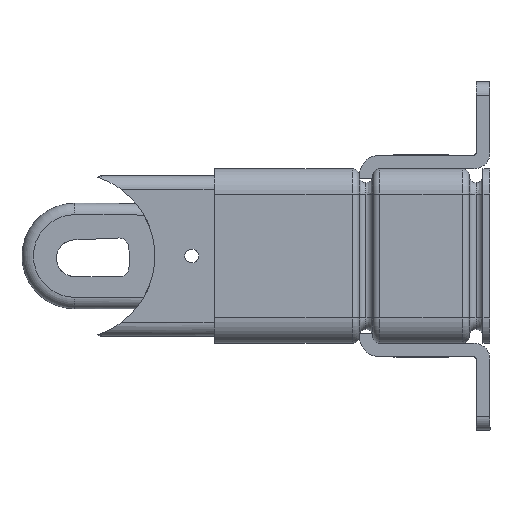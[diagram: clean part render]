
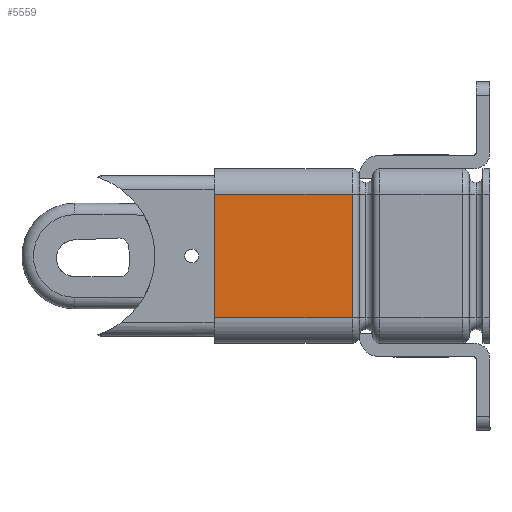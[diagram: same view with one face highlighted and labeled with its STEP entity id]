
A CAD part, left-side view. The second image highlights one B-rep face of the part: STEP entity #5559.
In plain terms, the highlighted planar face has unit normal (-1, 0, 0).
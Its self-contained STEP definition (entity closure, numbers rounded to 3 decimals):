
#4910=CARTESIAN_POINT('',(-19.,60.,5.5));
#4911=VERTEX_POINT('',#4910);
#4935=CARTESIAN_POINT('',(-19.,30.,5.5));
#4936=VERTEX_POINT('',#4935);
#4944=CARTESIAN_POINT('',(-19.,60.,5.5));
#4945=DIRECTION('',(0.0,-1.0,0.0));
#4946=VECTOR('',#4945,30.);
#4947=LINE('',#4944,#4946);
#4948=EDGE_CURVE('',#4911,#4936,#4947,.T.);
#5518=CARTESIAN_POINT('',(-19.,60.,32.5));
#5519=VERTEX_POINT('',#5518);
#5520=CARTESIAN_POINT('',(-19.,60.,32.5));
#5521=DIRECTION('',(0.0,0.0,-1.0));
#5522=VECTOR('',#5521,27.);
#5523=LINE('',#5520,#5522);
#5524=EDGE_CURVE('',#5519,#4911,#5523,.T.);
#5536=CARTESIAN_POINT('',(-19.,60.,32.5));
#5537=DIRECTION('',(-1.0,0.0,0.0));
#5538=DIRECTION('',(0.0,-1.0,0.0));
#5539=AXIS2_PLACEMENT_3D('',#5536,#5537,#5538);
#5540=PLANE('',#5539);
#5541=ORIENTED_EDGE('',*,*,#4948,.T.);
#5542=CARTESIAN_POINT('',(-19.,30.,32.5));
#5543=VERTEX_POINT('',#5542);
#5544=CARTESIAN_POINT('',(-19.,30.,32.5));
#5545=DIRECTION('',(0.0,0.0,-1.0));
#5546=VECTOR('',#5545,27.);
#5547=LINE('',#5544,#5546);
#5548=EDGE_CURVE('',#5543,#4936,#5547,.T.);
#5549=ORIENTED_EDGE('',*,*,#5548,.F.);
#5550=CARTESIAN_POINT('',(-19.,60.,32.5));
#5551=DIRECTION('',(0.0,-1.0,0.0));
#5552=VECTOR('',#5551,30.);
#5553=LINE('',#5550,#5552);
#5554=EDGE_CURVE('',#5519,#5543,#5553,.T.);
#5555=ORIENTED_EDGE('',*,*,#5554,.F.);
#5556=ORIENTED_EDGE('',*,*,#5524,.T.);
#5557=EDGE_LOOP('',(#5541,#5549,#5555,#5556));
#5558=FACE_OUTER_BOUND('',#5557,.T.);
#5559=ADVANCED_FACE('',(#5558),#5540,.T.);
